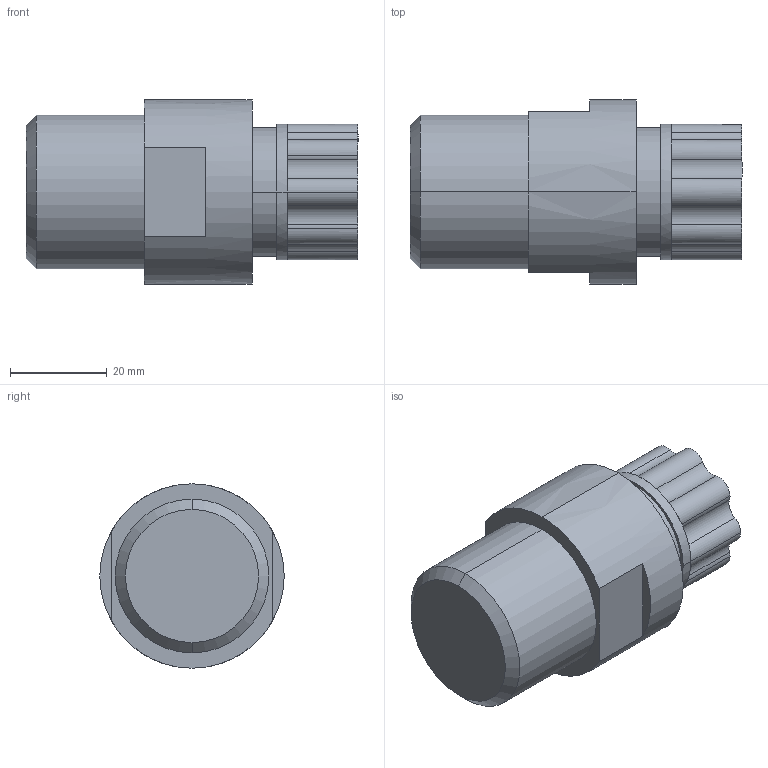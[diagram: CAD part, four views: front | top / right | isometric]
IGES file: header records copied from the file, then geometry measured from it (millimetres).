
Start section: SolidWorks IGES file using analytic representation for surfaces
Global section: file name: S:\Product Visuals\Defeatured Models and Parts Library\Parts Library IGES & STEP\Liquid Fittings\Front Mount liquid Fittings\Synchro Flare\60LPM\Fitting Synchro-Flare 08.IGS; native system: SolidWorks 2012; preprocessor: SolidWorks 2012; author: rachel.dressel; date: 120926.132309; units: inch
Bounding box: 68.61 x 38.1 x 38.1 mm (x, y, z)
Volume: 54646.2 mm3; surface area: 9586.8 mm2
Topology: 1 solids, 1 shells, 51 faces, 122 edges, 77 vertices
Faces by surface type: revolution 33, plane 18
